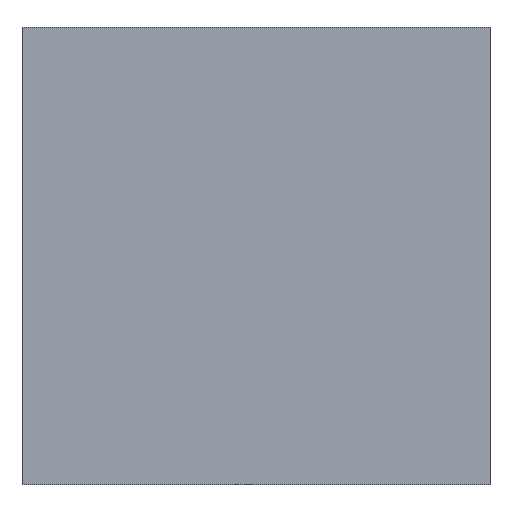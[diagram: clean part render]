
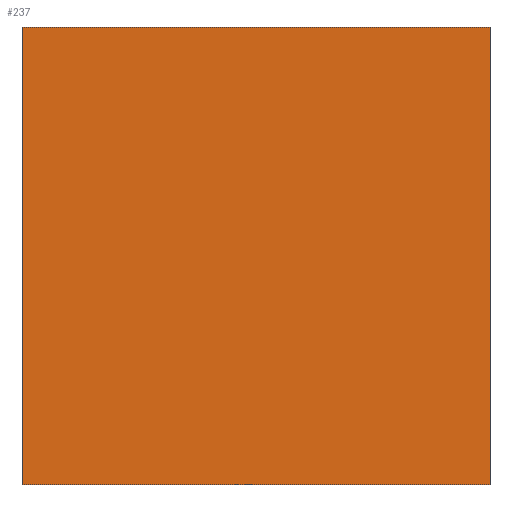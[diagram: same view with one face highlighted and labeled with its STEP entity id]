
A CAD part, front view. The second image highlights one B-rep face of the part: STEP entity #237.
In plain terms, the highlighted planar face has unit normal (0, -1, 0).
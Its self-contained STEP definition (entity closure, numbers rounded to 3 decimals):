
#21 = EDGE_CURVE('',#22,#24,#26,.T.);
#22 = VERTEX_POINT('',#23);
#23 = CARTESIAN_POINT('',(586.,-13.5,-11.25));
#24 = VERTEX_POINT('',#25);
#25 = CARTESIAN_POINT('',(586.,-13.5,11.25));
#26 = SURFACE_CURVE('',#27,(#31,#43),.PCURVE_S1.);
#27 = LINE('',#28,#29);
#28 = CARTESIAN_POINT('',(586.,-13.5,-11.25));
#29 = VECTOR('',#30,1.);
#30 = DIRECTION('',(0.,0.,1.));
#31 = PCURVE('',#32,#37);
#32 = PLANE('',#33);
#33 = AXIS2_PLACEMENT_3D('',#34,#35,#36);
#34 = CARTESIAN_POINT('',(586.,-13.5,-11.25));
#35 = DIRECTION('',(1.,0.,0.));
#36 = DIRECTION('',(0.,0.,1.));
#37 = DEFINITIONAL_REPRESENTATION('',(#38),#42);
#38 = LINE('',#39,#40);
#39 = CARTESIAN_POINT('',(0.,0.));
#40 = VECTOR('',#41,1.);
#41 = DIRECTION('',(1.,0.));
#42 = ( GEOMETRIC_REPRESENTATION_CONTEXT(2) 
PARAMETRIC_REPRESENTATION_CONTEXT() REPRESENTATION_CONTEXT('2D SPACE',''
  ) );
#43 = PCURVE('',#44,#49);
#44 = PLANE('',#45);
#45 = AXIS2_PLACEMENT_3D('',#46,#47,#48);
#46 = CARTESIAN_POINT('',(586.,-13.5,-11.25));
#47 = DIRECTION('',(0.,1.,0.));
#48 = DIRECTION('',(0.,0.,1.));
#49 = DEFINITIONAL_REPRESENTATION('',(#50),#54);
#50 = LINE('',#51,#52);
#51 = CARTESIAN_POINT('',(0.,0.));
#52 = VECTOR('',#53,1.);
#53 = DIRECTION('',(1.,0.));
#54 = ( GEOMETRIC_REPRESENTATION_CONTEXT(2) 
PARAMETRIC_REPRESENTATION_CONTEXT() REPRESENTATION_CONTEXT('2D SPACE',''
  ) );
#72 = PLANE('',#73);
#73 = AXIS2_PLACEMENT_3D('',#74,#75,#76);
#74 = CARTESIAN_POINT('',(586.,-13.5,-11.25));
#75 = DIRECTION('',(0.,0.,1.));
#76 = DIRECTION('',(1.,0.,0.));
#126 = PLANE('',#127);
#127 = AXIS2_PLACEMENT_3D('',#128,#129,#130);
#128 = CARTESIAN_POINT('',(586.,-13.5,11.25));
#129 = DIRECTION('',(0.,0.,1.));
#130 = DIRECTION('',(1.,0.,0.));
#141 = EDGE_CURVE('',#142,#144,#146,.T.);
#142 = VERTEX_POINT('',#143);
#143 = CARTESIAN_POINT('',(609.,-13.5,-11.25));
#144 = VERTEX_POINT('',#145);
#145 = CARTESIAN_POINT('',(609.,-13.5,11.25));
#146 = SURFACE_CURVE('',#147,(#151,#163),.PCURVE_S1.);
#147 = LINE('',#148,#149);
#148 = CARTESIAN_POINT('',(609.,-13.5,-11.25));
#149 = VECTOR('',#150,1.);
#150 = DIRECTION('',(0.,0.,1.));
#151 = PCURVE('',#152,#157);
#152 = PLANE('',#153);
#153 = AXIS2_PLACEMENT_3D('',#154,#155,#156);
#154 = CARTESIAN_POINT('',(609.,-13.5,-11.25));
#155 = DIRECTION('',(1.,0.,0.));
#156 = DIRECTION('',(0.,0.,1.));
#157 = DEFINITIONAL_REPRESENTATION('',(#158),#162);
#158 = LINE('',#159,#160);
#159 = CARTESIAN_POINT('',(0.,0.));
#160 = VECTOR('',#161,1.);
#161 = DIRECTION('',(1.,0.));
#162 = ( GEOMETRIC_REPRESENTATION_CONTEXT(2) 
PARAMETRIC_REPRESENTATION_CONTEXT() REPRESENTATION_CONTEXT('2D SPACE',''
  ) );
#163 = PCURVE('',#44,#164);
#164 = DEFINITIONAL_REPRESENTATION('',(#165),#169);
#165 = LINE('',#166,#167);
#166 = CARTESIAN_POINT('',(0.,23.));
#167 = VECTOR('',#168,1.);
#168 = DIRECTION('',(1.,0.));
#169 = ( GEOMETRIC_REPRESENTATION_CONTEXT(2) 
PARAMETRIC_REPRESENTATION_CONTEXT() REPRESENTATION_CONTEXT('2D SPACE',''
  ) );
#237 = ADVANCED_FACE('',(#238),#44,.F.);
#238 = FACE_BOUND('',#239,.F.);
#239 = EDGE_LOOP('',(#240,#261,#262,#283));
#240 = ORIENTED_EDGE('',*,*,#241,.F.);
#241 = EDGE_CURVE('',#22,#142,#242,.T.);
#242 = SURFACE_CURVE('',#243,(#247,#254),.PCURVE_S1.);
#243 = LINE('',#244,#245);
#244 = CARTESIAN_POINT('',(586.,-13.5,-11.25));
#245 = VECTOR('',#246,1.);
#246 = DIRECTION('',(1.,0.,0.));
#247 = PCURVE('',#44,#248);
#248 = DEFINITIONAL_REPRESENTATION('',(#249),#253);
#249 = LINE('',#250,#251);
#250 = CARTESIAN_POINT('',(0.,0.));
#251 = VECTOR('',#252,1.);
#252 = DIRECTION('',(0.,1.));
#253 = ( GEOMETRIC_REPRESENTATION_CONTEXT(2) 
PARAMETRIC_REPRESENTATION_CONTEXT() REPRESENTATION_CONTEXT('2D SPACE',''
  ) );
#254 = PCURVE('',#72,#255);
#255 = DEFINITIONAL_REPRESENTATION('',(#256),#260);
#256 = LINE('',#257,#258);
#257 = CARTESIAN_POINT('',(0.,0.));
#258 = VECTOR('',#259,1.);
#259 = DIRECTION('',(1.,0.));
#260 = ( GEOMETRIC_REPRESENTATION_CONTEXT(2) 
PARAMETRIC_REPRESENTATION_CONTEXT() REPRESENTATION_CONTEXT('2D SPACE',''
  ) );
#261 = ORIENTED_EDGE('',*,*,#21,.T.);
#262 = ORIENTED_EDGE('',*,*,#263,.T.);
#263 = EDGE_CURVE('',#24,#144,#264,.T.);
#264 = SURFACE_CURVE('',#265,(#269,#276),.PCURVE_S1.);
#265 = LINE('',#266,#267);
#266 = CARTESIAN_POINT('',(586.,-13.5,11.25));
#267 = VECTOR('',#268,1.);
#268 = DIRECTION('',(1.,0.,0.));
#269 = PCURVE('',#44,#270);
#270 = DEFINITIONAL_REPRESENTATION('',(#271),#275);
#271 = LINE('',#272,#273);
#272 = CARTESIAN_POINT('',(22.5,0.));
#273 = VECTOR('',#274,1.);
#274 = DIRECTION('',(0.,1.));
#275 = ( GEOMETRIC_REPRESENTATION_CONTEXT(2) 
PARAMETRIC_REPRESENTATION_CONTEXT() REPRESENTATION_CONTEXT('2D SPACE',''
  ) );
#276 = PCURVE('',#126,#277);
#277 = DEFINITIONAL_REPRESENTATION('',(#278),#282);
#278 = LINE('',#279,#280);
#279 = CARTESIAN_POINT('',(0.,0.));
#280 = VECTOR('',#281,1.);
#281 = DIRECTION('',(1.,0.));
#282 = ( GEOMETRIC_REPRESENTATION_CONTEXT(2) 
PARAMETRIC_REPRESENTATION_CONTEXT() REPRESENTATION_CONTEXT('2D SPACE',''
  ) );
#283 = ORIENTED_EDGE('',*,*,#141,.F.);
